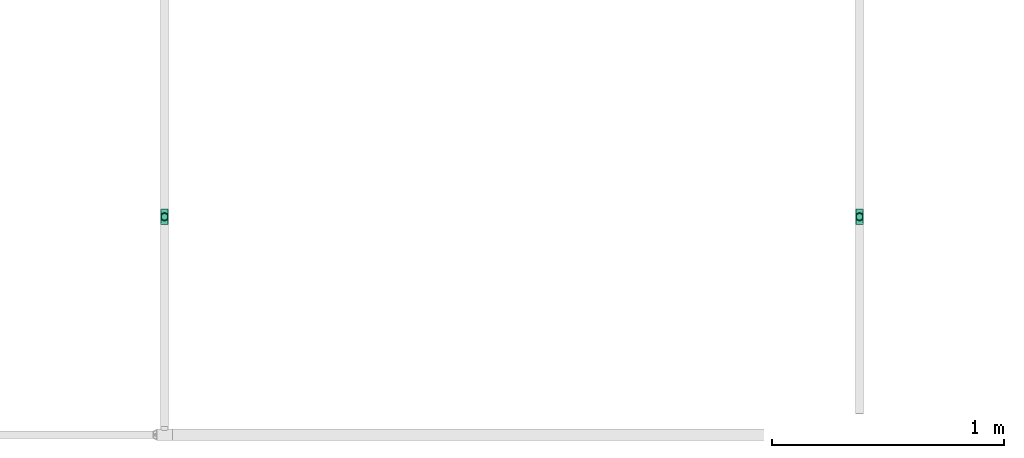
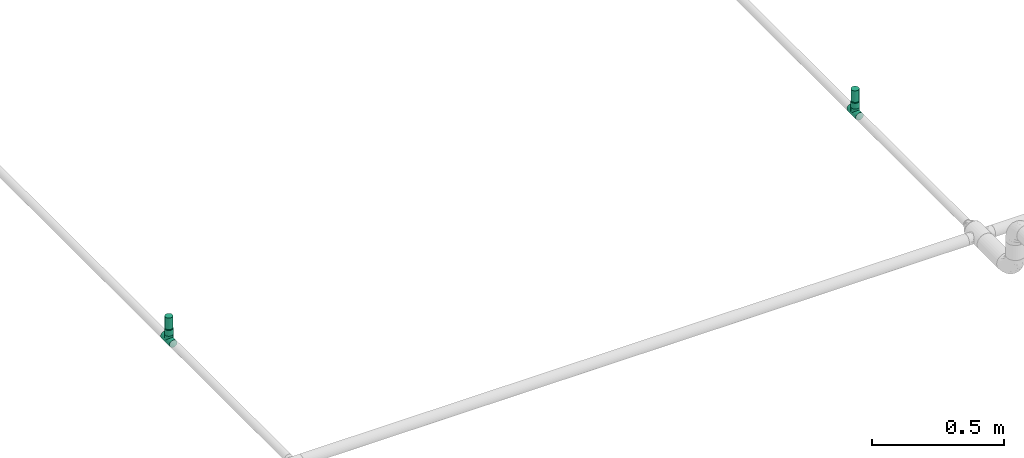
# One storey, part 32 of 45: 4 flow fittings, 2 flow segments, 2 flow terminals.
"""IFC2X3 building model written with IfcOpenShell, lengths in millimetres."""

import ifcopenshell
import ifcopenshell.guid

model = None  # the IFC model being written
_history = None  # IfcOwnerHistory: only IFC2X3 demands one
_inside = {}  # id of a spatial element -> (the spatial element, [elements in it])
_under = {}  # id of a project, library or spatial element -> (it, [spatial elements below it])
_declared = {}  # id of a project -> (the project, [libraries it declares])
_typed = {}  # id of a type object -> (the type object, [elements of that type])
_made_of = {}  # id of a material, layer set ... -> (it, [elements and type objects made of it])


def new_model(schema):
    """Start an empty IFC model of exactly this schema.

    Asked for "IFC4X3", IfcOpenShell would pick the latest addendum, in which some entities
    have other attributes; the version numbers below select the first issue.
    IFC2X3 requires an IfcOwnerHistory on every rooted entity: one is made here for all.
    """
    global model, _history
    if schema == "IFC4X3":
        model = ifcopenshell.file(schema_version=(4, 3, 0, 0))
    else:
        model = ifcopenshell.file(schema=schema)
    _inside.clear()
    _under.clear()
    _declared.clear()
    _typed.clear()
    _made_of.clear()
    _history = None
    if model.schema == "IFC2X3":
        org = make("IfcOrganization", Name="unknown")
        user = make(
            "IfcPersonAndOrganization",
            ThePerson=make("IfcPerson", FamilyName="unknown"),
            TheOrganization=org,
        )
        app = make(
            "IfcApplication",
            ApplicationDeveloper=org,
            Version="unknown",
            ApplicationFullName="unknown",
            ApplicationIdentifier="unknown",
        )
        _history = make(
            "IfcOwnerHistory",
            OwningUser=user,
            OwningApplication=app,
            ChangeAction="ADDED",
            CreationDate=0,
        )
    return model


def make(cls, **values):
    """One entity of the class cls with the attributes given. An attribute that is None is left unset."""
    return model.create_entity(
        cls, **{name: value for name, value in values.items() if value is not None}
    )


def entity(cls, *values):
    """Any entity or typed value of the class cls, its attributes in the order of the schema. None: left unset."""
    e = model.create_entity(cls)
    for i, value in enumerate(values):
        if value is not None:
            e[i] = value
    return e


def rooted(cls, **values):
    """An entity with a GlobalId (a new one), such as an element, a storey or a relation."""
    return make(cls, GlobalId=ifcopenshell.guid.new(), OwnerHistory=_history, **values)


def si_unit(unit_type, name, prefix=None):
    """IfcSIUnit, for example si_unit("LENGTHUNIT", "METRE", prefix="MILLI")."""
    return make("IfcSIUnit", UnitType=unit_type, Prefix=prefix, Name=name)


def converted_unit(unit_type, name, factor, base, dimensions=None, offset=None):
    """IfcConversionBasedUnit, such as the inch: factor (a typed value) times the base unit."""
    return make(
        "IfcConversionBasedUnit"
        if offset is None
        else "IfcConversionBasedUnitWithOffset",
        ConversionOffset=offset,
        Dimensions=None
        if dimensions is None
        else entity("IfcDimensionalExponents", *dimensions),
        UnitType=unit_type,
        Name=name,
        ConversionFactor=make(
            "IfcMeasureWithUnit", ValueComponent=factor, UnitComponent=base
        ),
    )


def derived_unit(unit_type, elements):
    """IfcDerivedUnit: a product of units, each with its exponent."""
    return make(
        "IfcDerivedUnit",
        Elements=[
            make("IfcDerivedUnitElement", Unit=unit, Exponent=power)
            for unit, power in elements
        ],
        UnitType=unit_type,
    )


def assignment(units):
    """IfcUnitAssignment: the units of a project."""
    return None if units is None else make("IfcUnitAssignment", Units=units)


def point(xyz):
    """IfcCartesianPoint."""
    return None if xyz is None else make("IfcCartesianPoint", Coordinates=xyz)


def direction(xyz):
    """IfcDirection."""
    return None if xyz is None else make("IfcDirection", DirectionRatios=xyz)


def frame(location, z_axis=None, x_axis=None):
    """IfcAxis2Placement3D, a coordinate frame: its origin and axes. An axis left out is left unset."""
    return make(
        "IfcAxis2Placement3D",
        Location=point(location),
        Axis=direction(z_axis),
        RefDirection=direction(x_axis),
    )


def frame_2d(location, x_axis=None):
    """IfcAxis2Placement2D, a coordinate frame in the plane: its origin and x axis."""
    return make(
        "IfcAxis2Placement2D", Location=point(location), RefDirection=direction(x_axis)
    )


def origin_with_axes():
    """The frame at (0, 0, 0) with the z axis (0, 0, 1) and the x axis (1, 0, 0) written out."""
    return frame((0.0, 0.0, 0.0), z_axis=(0.0, 0.0, 1.0), x_axis=(1.0, 0.0, 0.0))


def origin_2d_with_axis():
    """The frame at (0, 0) in the plane with the x axis (1, 0) written out."""
    return frame_2d((0.0, 0.0), x_axis=(1.0, 0.0))


def place(relative_to, where):
    """IfcLocalPlacement: puts the frame where relative to a parent placement (None: the world)."""
    return make(
        "IfcLocalPlacement", PlacementRelTo=relative_to, RelativePlacement=where
    )


def context(
    kind, dimensions, precision=None, world=None, true_north=None, identifier=None
):
    """IfcGeometricRepresentationContext, for example the 3D "Model" context."""
    return make(
        "IfcGeometricRepresentationContext",
        ContextIdentifier=identifier,
        ContextType=kind,
        CoordinateSpaceDimension=dimensions,
        Precision=precision,
        WorldCoordinateSystem=world,
        TrueNorth=true_north,
    )


def subcontext(parent, identifier, kind, view, scale=None):
    """IfcGeometricRepresentationSubContext, for example "Body" below "Model"."""
    return make(
        "IfcGeometricRepresentationSubContext",
        ContextIdentifier=identifier,
        ContextType=kind,
        ParentContext=parent,
        TargetScale=scale,
        TargetView=view,
    )


def project(units=None, contexts=None):
    """IfcProject with its units and contexts."""
    return rooted(
        "IfcProject",
        Name="project",
        RepresentationContexts=contexts,
        UnitsInContext=assignment(units),
    )


def spatial(cls, under=None, at=None, **own):
    """A site, building, storey or space (cls), placed at a placement, below another one or the project."""
    s = rooted(cls, ObjectPlacement=at, **own)
    if under is not None:
        _under.setdefault(under.id(), (under, []))[1].append(s)
    return s


def profile(cls, at=None, kind="AREA", **sizes):
    """A parametric profile (cls). Its sizes go by their IFC names, for example OverallWidth=200.0."""
    return make(cls, ProfileType=kind, Position=at, **sizes)


def hollow_circle(**sizes):
    """IfcCircleHollowProfileDef."""
    return profile("IfcCircleHollowProfileDef", **sizes)


def extrude(swept, where, along, depth):
    """IfcExtrudedAreaSolid: the profile swept, set in the frame where, extruded along a direction by depth."""
    return make(
        "IfcExtrudedAreaSolid",
        SweptArea=swept,
        Position=where,
        ExtrudedDirection=direction(along),
        Depth=depth,
    )


def faces_of(points, faces, orient=None, outer=None):
    """IfcFace entities. A face is a list of loops; a loop is a list of indices into points, from 0.

    orient and outer hold one flag for each loop. By default every Orientation is true, the
    first loop of a face is its IfcFaceOuterBound and the others are IfcFaceBound.
    """
    made = []
    for i, loops in enumerate(faces):
        bounds = []
        for j, loop in enumerate(loops):
            is_outer = j == 0 if outer is None else outer[i][j]
            bounds.append(
                make(
                    "IfcFaceOuterBound" if is_outer else "IfcFaceBound",
                    Bound=make("IfcPolyLoop", Polygon=[points[k] for k in loop]),
                    Orientation=True if orient is None else orient[i][j],
                )
            )
        made.append(make("IfcFace", Bounds=bounds))
    return made


def open_shell(faces, orient=None, outer=None):
    """The faces of one IfcOpenShell. surface_model builds it on its shared points."""
    return ("IfcOpenShell", faces, orient, outer)


def surface_model(cls, points, shells):
    """IfcFaceBasedSurfaceModel or IfcShellBasedSurfaceModel (cls): surfaces that need not close."""
    shared = [point(p) for p in points]
    made = [make(c, CfsFaces=faces_of(shared, fs, o, b)) for c, fs, o, b in shells]
    if cls == "IfcFaceBasedSurfaceModel":
        return make(cls, FbsmFaces=made)
    return make(cls, SbsmBoundary=made)


def shape(context_of_items, identifier, shape_type, items):
    """IfcShapeRepresentation: the items that make up one representation, for example the "Body"."""
    return make(
        "IfcShapeRepresentation",
        ContextOfItems=context_of_items,
        RepresentationIdentifier=identifier,
        RepresentationType=shape_type,
        Items=items,
    )


def source(mapping_origin, context_of_items, identifier, shape_type, items):
    """IfcRepresentationMap: a shape defined once, which mapped items show again and again."""
    return make(
        "IfcRepresentationMap",
        MappingOrigin=mapping_origin,
        MappedRepresentation=shape(context_of_items, identifier, shape_type, items),
    )


def transform(
    local_origin,
    x_axis=None,
    y_axis=None,
    z_axis=None,
    scale=None,
    scale2=None,
    scale3=None,
    uniform=True,
):
    """IfcCartesianTransformationOperator3D, or its non-uniform kind. x_axis, y_axis, z_axis: its Axis1, 2, 3."""
    if uniform:
        return make(
            "IfcCartesianTransformationOperator3D",
            Axis1=direction(x_axis),
            Axis2=direction(y_axis),
            LocalOrigin=point(local_origin),
            Scale=scale,
            Axis3=direction(z_axis),
        )
    return make(
        "IfcCartesianTransformationOperator3DnonUniform",
        Axis1=direction(x_axis),
        Axis2=direction(y_axis),
        LocalOrigin=point(local_origin),
        Scale=scale,
        Axis3=direction(z_axis),
        Scale2=scale2,
        Scale3=scale3,
    )


def mapped(mapping_source, mapping_target):
    """IfcMappedItem: shows the shape of a source again, moved by a transform."""
    return make(
        "IfcMappedItem", MappingSource=mapping_source, MappingTarget=mapping_target
    )


def made_of(thing, what):
    """Note that an element or type object is made of a material, layer set ...; save() writes the relation."""
    if what is not None:
        _made_of.setdefault(what.id(), (what, []))[1].append(thing)
    return thing


def type_object(cls, material=None, **own):
    """A type object (cls), such as IfcWallType, which elements share."""
    return made_of(rooted(cls, **own), material)


def element(
    cls,
    number,
    at=None,
    inside=None,
    cuts=None,
    type_object=None,
    material=None,
    context=None,
    identifier="Body",
    shape_type=None,
    held_by="IfcProductDefinitionShape",
    body=None,
    shapes=None,
    **own,
):
    """One element of the class cls, such as IfcWall. Its Tag is "e" and its number.

    at: its placement. inside: the storey or other place that contains it. cuts: it is an
    opening in that element (IfcRelVoidsElement). A single representation is given by context,
    identifier, shape_type and body (its items); several are given by shapes. held_by: the class
    of the entity that holds the representations. save() writes the other relations.
    """
    e = rooted(cls, Tag="e%d" % number, ObjectPlacement=at, **own)
    if body is not None:
        shapes = [shape(context, identifier, shape_type, body)]
    if shapes is not None:
        e.Representation = make(held_by, Representations=shapes)
    if inside is not None:
        _inside.setdefault(inside.id(), (inside, []))[1].append(e)
    if cuts is not None:
        rooted(
            "IfcRelVoidsElement", RelatingBuildingElement=cuts, RelatedOpeningElement=e
        )
    if type_object is not None:
        _typed.setdefault(type_object.id(), (type_object, []))[1].append(e)
    return made_of(e, material)


def aggregate(whole, parts):
    """IfcRelAggregates: a whole, such as a stair, and the parts it consists of."""
    return rooted("IfcRelAggregates", RelatingObject=whole, RelatedObjects=parts)


def save(model, path):
    """Write the relations noted so far, then the file.

    IfcRelAggregates (storeys below a building ...), IfcRelContainedInSpatialStructure (elements
    in a storey), IfcRelDefinesByType, IfcRelAssociatesMaterial and IfcRelDeclares: one each for
    every whole, place, type object, material and project.
    """
    for whole, parts in _under.values():
        aggregate(whole, parts)
    for where, things in _inside.values():
        rooted(
            "IfcRelContainedInSpatialStructure",
            RelatedElements=things,
            RelatingStructure=where,
        )
    for kind, things in _typed.values():
        rooted("IfcRelDefinesByType", RelatedObjects=things, RelatingType=kind)
    for what, things in _made_of.values():
        rooted("IfcRelAssociatesMaterial", RelatedObjects=things, RelatingMaterial=what)
    for by, libraries in _declared.values():
        rooted("IfcRelDeclares", RelatingContext=by, RelatedDefinitions=libraries)
    model.write(path)


model = new_model("IFC2X3")

# Units and contexts
model_context = context("Model", 3, precision=0.01, world=frame((0.0, 4.29681676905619e-09, 0.0)), true_north=direction((4.01073788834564e-13, 1.0)))
plan_context = context("Plan", 3, precision=0.01, world=frame((0.0, 4.29681676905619e-09, 0.0)), true_north=direction((4.01073788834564e-13, 1.0)))
body_context = subcontext(model_context, "Body", "Model", "MODEL_VIEW")
ifc_project = project(units=[converted_unit("PLANEANGLEUNIT", "DEGREE", entity("IfcPositiveLengthMeasure", 0.0174532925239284), si_unit("PLANEANGLEUNIT", "RADIAN"), dimensions=[0, 0, 0, 0, 0, 0, 0]), si_unit("AREAUNIT", "SQUARE_METRE"), si_unit("LENGTHUNIT", "METRE", prefix="MILLI"), si_unit("MASSUNIT", "GRAM", prefix="KILO"), si_unit("POWERUNIT", "WATT"), si_unit("PRESSUREUNIT", "PASCAL", prefix="KILO"), si_unit("FORCEUNIT", "NEWTON", prefix="KILO"), si_unit("ELECTRICVOLTAGEUNIT", "VOLT"), si_unit("ELECTRICCURRENTUNIT", "AMPERE"), si_unit("THERMODYNAMICTEMPERATUREUNIT", "DEGREE_CELSIUS"), si_unit("TIMEUNIT", "SECOND"), si_unit("VOLUMEUNIT", "CUBIC_METRE"), derived_unit("LINEARVELOCITYUNIT", [(si_unit("LENGTHUNIT", "METRE"), 1), (si_unit("TIMEUNIT", "SECOND"), -1)]), derived_unit("VOLUMETRICFLOWRATEUNIT", [(si_unit("VOLUMEUNIT", "CUBIC_METRE"), 1), (si_unit("TIMEUNIT", "SECOND"), -1)]), derived_unit("THERMALTRANSMITTANCEUNIT", [(si_unit("POWERUNIT", "WATT"), 1), (si_unit("THERMODYNAMICTEMPERATUREUNIT", "KELVIN"), -1), (si_unit("AREAUNIT", "SQUARE_METRE"), -1)]), derived_unit("SOUNDPRESSUREUNIT", [(si_unit("PRESSUREUNIT", "PASCAL"), 1)])], contexts=[model_context, plan_context])

# Site, building, storey
site_placement = place(None, frame((0.0, -4.29681676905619e-09, 0.0), z_axis=(0.0, 0.0, 1.0), x_axis=(1.0, 0.0, 0.0)))
site = spatial("IfcSite", under=ifc_project, at=site_placement, CompositionType="ELEMENT")
building_placement = place(site_placement, frame((0.0, 4.29681676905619e-09, 0.0), z_axis=(0.0, 0.0, 1.0), x_axis=(1.0, 0.0, 0.0)))
building = spatial("IfcBuilding", under=site, at=building_placement, Name="mc-building", CompositionType="ELEMENT")
storey_placement = place(building_placement, frame((0.0, 0.0, 210200.0), z_axis=(0.0, 0.0, 1.0), x_axis=(1.0, 0.0, 0.0)))
storey = spatial("IfcBuildingStorey", under=building, at=storey_placement, Name="Nivå F - 0,7 m", CompositionType="ELEMENT", Elevation=210200.0)

# Flow fittings
pipe_fitting_type_1 = type_object("IfcPipeFittingType", Name="magi_pipe_fe_tee_centric_90_001", PredefinedType="JUNCTION")
shared_shape_1 = source(origin_with_axes(), body_context, "Body", "SurfaceModel", [
    surface_model("IfcShellBasedSurfaceModel", [(-33.8, 4.37404, -16.32415), (-33.8, 0.0, -16.9), (-33.8, 16.32415, -4.37404), (-33.8, 8.45, -14.63583), (-33.8, 11.9501, -11.9501), (-33.8, 14.63583, -8.45), (-33.8, -16.9, 0.0), (-33.8, -11.9501, -11.9501), (-33.8, -14.63583, -8.45), (-33.8, -8.45, -14.63583), (-33.8, -4.37404, -16.32415), (-33.8, -16.32415, -4.37404), (-33.8, 14.63583, 8.45), (-33.8, 16.32415, 4.37404), (-33.8, -8.45, 14.63583), (-33.8, 8.45, 14.63583), (-33.8, 11.9501, 11.9501), (-33.8, 4.37404, 16.32415), (-33.8, 0.0, 16.9), (-33.8, -11.9501, 11.9501), (-33.8, -14.63583, 8.45), (-33.8, -16.32415, 4.37404), (-33.8, -4.37404, 16.32415), (-33.8, 16.9, 0.0), (33.8, 4.37404, -16.32415), (33.8, -16.9, 0.0), (33.8, 0.0, -16.9), (33.8, 14.63583, -8.45), (33.8, 8.45, -14.63583), (33.8, 16.32415, -4.37404), (33.8, 11.9501, -11.9501), (33.8, -16.32415, 4.37404), (33.8, -8.45, -14.63583), (33.8, -4.37404, -16.32415), (33.8, -11.9501, -11.9501), (33.8, -14.63583, -8.45), (33.8, -16.32415, -4.37404), (33.8, 16.32415, 4.37404), (33.8, 8.45, 14.63583), (33.8, 14.63583, 8.45), (33.8, 11.9501, 11.9501), (33.8, -8.45, 14.63583), (33.8, 4.37404, 16.32415), (33.8, -14.63583, 8.45), (33.8, -11.9501, 11.9501), (33.8, 0.0, 16.9), (33.8, -4.37404, 16.32415), (33.8, 16.9, 0.0), (16.28698, -16.28698, 4.51047), (16.9, -16.9, 0.0), (14.62704, -14.62704, 8.4652), (9.47213, -9.47213, 13.99602), (12.26343, -12.26343, 11.62834), (-16.9, -16.9, 0.0), (-16.28698, -16.28698, 4.51047), (-14.62704, -14.62704, 8.4652), (-12.26343, -12.26343, 11.62834), (-9.47213, -9.47213, 13.99602), (-6.42894, -6.42894, 15.62942), (6.42894, -6.42894, 15.62942), (3.24522, -3.24522, 16.58549), (0.0, 0.0, 16.9), (-3.24522, -3.24522, 16.58549), (3.24522, -3.24522, -16.58549), (0.0, 0.0, -16.9), (-3.24522, -3.24522, -16.58549), (-6.42894, -6.42894, -15.62942), (6.42894, -6.42894, -15.62942), (9.47213, -9.47213, -13.99602), (12.26343, -12.26343, -11.62834), (14.62704, -14.62704, -8.4652), (16.28698, -16.28698, -4.51047), (-9.47213, -9.47213, -13.99602), (-12.26343, -12.26343, -11.62834), (-16.28698, -16.28698, -4.51047), (-14.62704, -14.62704, -8.4652), (4.37404, -25.35, -16.32415), (-16.9, -25.35, 0.0), (0.0, -25.35, -16.9), (14.63583, -25.35, -8.45), (8.45, -25.35, -14.63583), (16.32415, -25.35, -4.37404), (11.9501, -25.35, -11.9501), (-11.9501, -25.35, -11.9501), (-8.45, -25.35, -14.63583), (-4.37404, -25.35, -16.32415), (-14.63583, -25.35, -8.45), (-16.32415, -25.35, -4.37404), (16.9, -25.35, 0.0), (8.45, -25.35, 14.63583), (16.32415, -25.35, 4.37404), (14.63583, -25.35, 8.45), (-8.45, -25.35, 14.63583), (11.9501, -25.35, 11.9501), (4.37404, -25.35, 16.32415), (-16.32415, -25.35, 4.37404), (-11.9501, -25.35, 11.9501), (-14.63583, -25.35, 8.45), (0.0, -25.35, 16.9), (-4.37404, -25.35, 16.32415)], [open_shell([[[0, 1, 2]], [[3, 0, 4]], [[0, 2, 5]], [[4, 0, 5]], [[6, 2, 1]], [[7, 8, 9]], [[1, 10, 9]], [[11, 6, 8]], [[1, 9, 8]], [[1, 8, 6]], [[6, 12, 2]], [[12, 13, 2]], [[14, 12, 6]], [[12, 14, 15]], [[16, 12, 15]], [[17, 15, 18]], [[19, 14, 20]], [[21, 20, 14]], [[22, 18, 14]], [[14, 6, 21]], [[14, 18, 15]], [[23, 2, 13]], [[24, 25, 26]], [[27, 24, 28]], [[27, 29, 24]], [[27, 28, 30]], [[31, 25, 24]], [[26, 32, 33]], [[26, 34, 32]], [[35, 25, 36]], [[35, 34, 26]], [[25, 35, 26]], [[24, 29, 31]], [[29, 37, 38]], [[38, 37, 39]], [[38, 31, 29]], [[38, 39, 40]], [[41, 38, 42]], [[43, 41, 44]], [[41, 43, 31]], [[41, 45, 46]], [[41, 31, 38]], [[42, 45, 41]], [[29, 47, 37]], [[31, 43, 48]], [[25, 31, 49]], [[49, 31, 48]], [[43, 50, 48]], [[44, 41, 51]], [[50, 43, 52]], [[51, 52, 44]], [[52, 43, 44]], [[53, 54, 21]], [[53, 21, 6]], [[21, 54, 20]], [[54, 55, 20]], [[56, 57, 19]], [[19, 20, 56]], [[19, 57, 14]], [[56, 20, 55]], [[14, 57, 58]], [[51, 41, 59]], [[60, 45, 61]], [[59, 46, 60]], [[46, 59, 41]], [[60, 46, 45]], [[61, 45, 42]], [[39, 37, 13]], [[16, 38, 40]], [[12, 40, 39]], [[42, 38, 15]], [[23, 37, 47]], [[62, 61, 18]], [[62, 22, 58]], [[22, 62, 18]], [[58, 22, 14]], [[61, 17, 18]], [[42, 17, 61]], [[15, 17, 42]], [[15, 38, 16]], [[12, 16, 40]], [[13, 12, 39]], [[37, 23, 13]], [[5, 27, 30]], [[23, 47, 29]], [[30, 28, 3]], [[27, 2, 29]], [[26, 33, 63]], [[26, 64, 24]], [[64, 26, 63]], [[28, 24, 0]], [[64, 0, 24]], [[4, 30, 3]], [[2, 27, 5]], [[5, 30, 4]], [[2, 23, 29]], [[65, 66, 10]], [[1, 0, 64]], [[1, 65, 10]], [[66, 9, 10]], [[0, 3, 28]], [[1, 64, 65]], [[63, 33, 67]], [[32, 34, 68]], [[69, 68, 34]], [[35, 70, 69]], [[69, 34, 35]], [[32, 68, 67]], [[36, 25, 49]], [[36, 71, 35]], [[71, 36, 49]], [[35, 71, 70]], [[72, 9, 66]], [[72, 7, 9]], [[7, 72, 73]], [[7, 73, 8]], [[74, 53, 11]], [[75, 74, 8]], [[74, 11, 8]], [[11, 53, 6]], [[75, 8, 73]], [[32, 67, 33]], [[76, 77, 78]], [[79, 76, 80]], [[79, 81, 76]], [[79, 80, 82]], [[77, 76, 81]], [[78, 83, 84]], [[84, 85, 78]], [[86, 77, 87]], [[83, 78, 86]], [[77, 86, 78]], [[81, 88, 77]], [[89, 88, 90]], [[89, 90, 91]], [[92, 77, 89]], [[89, 91, 93]], [[92, 89, 94]], [[95, 96, 97]], [[96, 95, 92]], [[92, 98, 99]], [[95, 77, 92]], [[94, 98, 92]], [[89, 77, 88]], [[77, 95, 53]], [[54, 53, 95]], [[97, 96, 56]], [[96, 92, 57]], [[95, 97, 54]], [[58, 92, 99]], [[55, 54, 97]], [[56, 55, 97]], [[58, 57, 92]], [[98, 61, 62]], [[58, 99, 62]], [[56, 96, 57]], [[62, 99, 98]], [[94, 60, 98]], [[89, 59, 94]], [[91, 90, 48]], [[52, 93, 91]], [[93, 51, 89]], [[49, 90, 88]], [[59, 60, 94]], [[51, 59, 89]], [[49, 48, 90]], [[50, 52, 91]], [[48, 50, 91]], [[51, 93, 52]], [[98, 60, 61]], [[88, 81, 49]], [[71, 49, 81]], [[79, 82, 69]], [[82, 80, 68]], [[81, 79, 71]], [[67, 80, 76]], [[70, 71, 79]], [[69, 70, 79]], [[67, 68, 80]], [[78, 64, 63]], [[67, 76, 63]], [[69, 82, 68]], [[63, 76, 78]], [[85, 65, 78]], [[84, 66, 85]], [[86, 87, 74]], [[86, 73, 83]], [[72, 84, 83]], [[53, 87, 77]], [[66, 65, 85]], [[72, 66, 84]], [[53, 74, 87]], [[75, 73, 86]], [[74, 75, 86]], [[72, 83, 73]], [[78, 65, 64]]])]),
])
for number, where, z_axis, x_axis, name in (
    (1, (341657.5, 463176.80156, 2810.44542), (-1.0, 0.0, 0.0), (0.0, 1.0, 0.0), "magi_pipe_fe_tee_centric_90_001"),
    (2, (338657.5, 463176.80156, 2810.44542), (-1.0, 0.0, 0.0), (0.0, 1.0, 0.0), "magi_pipe_fe_tee_centric_90_001"),
):
    element("IfcFlowFitting", number, at=place(storey_placement, frame(where, z_axis=z_axis, x_axis=x_axis)), inside=storey, type_object=pipe_fitting_type_1, Name=name, context=body_context, shape_type="MappedRepresentation", body=[
        mapped(shared_shape_1, transform((0.0, 0.0, 0.0), scale=1.0)),
    ])
pipe_fitting_type_2 = type_object("IfcPipeFittingType", Name="magi_pipe_fe_reducer_centric_short_001", PredefinedType="TRANSITION")
shared_shape_2 = source(origin_with_axes(), body_context, "Body", "SurfaceModel", [
    surface_model("IfcShellBasedSurfaceModel", [(9.0, 4.37404, -16.32415), (9.0, 8.45, -14.63583), (9.0, 11.9501, -11.9501), (9.0, 0.0, -16.9), (9.0, 16.32415, -4.37404), (9.0, 16.32415, 4.37404), (9.0, 14.63583, -8.45), (9.0, -8.45, -14.63583), (9.0, -4.37404, -16.32415), (9.0, -11.9501, -11.9501), (9.0, -16.32415, -4.37404), (9.0, -14.63583, -8.45), (9.0, -16.32415, 4.37404), (9.0, 16.9, 0.0), (9.0, 14.63583, 8.45), (9.0, 11.9501, 11.9501), (9.0, 4.37404, 16.32415), (9.0, 0.0, 16.9), (9.0, 8.45, 14.63583), (9.0, -14.63583, 8.45), (9.0, -16.9, 0.0), (9.0, -8.45, 14.63583), (9.0, -11.9501, 11.9501), (9.0, -4.37404, 16.32415), (7.0, 4.37404, 16.32415), (7.0, -14.63583, 8.45), (7.0, 0.0, 16.9), (7.0, 16.32415, 4.37404), (7.0, 8.45, 14.63583), (7.0, 11.9501, 11.9501), (7.0, 14.63583, 8.45), (7.0, -8.45, 14.63583), (7.0, -11.9501, 11.9501), (7.0, -4.37404, 16.32415), (7.0, -16.32415, 4.37404), (7.0, -16.32415, -4.37404), (7.0, -16.9, 0.0), (7.0, -8.45, -14.63583), (7.0, 16.32415, -4.37404), (7.0, 11.9501, -11.9501), (7.0, 14.63583, -8.45), (7.0, 8.45, -14.63583), (7.0, 4.37404, -16.32415), (7.0, 0.0, -16.9), (7.0, -11.9501, -11.9501), (7.0, -14.63583, -8.45), (7.0, -4.37404, -16.32415), (7.0, 16.9, 0.0), (-2.0, -9.47523, 9.47523), (-2.0, 0.0, 13.4), (-2.0, 3.46818, 12.94341), (-2.0, 6.7, 11.60474), (-2.0, 9.47523, 9.47523), (-2.0, 11.60474, 6.7), (-2.0, 12.94341, 3.46818), (-2.0, -3.46818, 12.94341), (-2.0, -6.7, 11.60474), (-2.0, -12.94341, 3.46818), (-2.0, -11.60474, 6.7), (-2.0, -6.7, -11.60474), (-2.0, -12.94341, -3.46818), (-2.0, -13.4, 0.0), (-2.0, 12.94341, -3.46818), (-2.0, 6.7, -11.60474), (-2.0, 9.47523, -9.47523), (-2.0, 11.60474, -6.7), (-2.0, 3.46818, -12.94341), (-2.0, 0.0, -13.4), (-2.0, -9.47523, -9.47523), (-2.0, -11.60474, -6.7), (-2.0, -3.46818, -12.94341), (-2.0, 13.4, 0.0), (0.0, 12.94341, -3.46818), (0.0, 3.46818, -12.94341), (0.0, 6.7, -11.60474), (0.0, 11.60474, -6.7), (0.0, 9.47523, -9.47523), (0.0, -6.7, -11.60474), (0.0, -12.94341, 3.46818), (0.0, -3.46818, -12.94341), (0.0, 0.0, -13.4), (0.0, -9.47523, -9.47523), (0.0, -12.94341, -3.46818), (0.0, -11.60474, -6.7), (0.0, 13.4, 0.0), (0.0, 12.94341, 3.46818), (0.0, 11.60474, 6.7), (0.0, 9.47523, 9.47523), (0.0, 0.0, 13.4), (0.0, 6.7, 11.60474), (0.0, 3.46818, 12.94341), (0.0, -9.47523, 9.47523), (0.0, -11.60474, 6.7), (0.0, -13.4, 0.0), (0.0, -3.46818, 12.94341), (0.0, -6.7, 11.60474), (7.0, -14.51228, -5.76448), (0.0, -11.43761, -4.73762), (7.0, -13.23119, -8.85729), (0.0, -10.45642, -7.10642), (0.0, -12.41881, -2.36881), (7.0, -15.70614, -2.88224), (0.0, -2.36881, -12.41881), (7.0, -5.97505, -14.42505), (0.0, -7.10642, -10.45642), (0.0, -4.73762, -11.43761), (7.0, -2.98753, -15.66253), (7.0, -8.96258, -13.18758), (7.0, 2.98753, -15.66253), (0.0, 2.36881, -12.41881), (0.0, 12.45339, -2.28533), (7.0, 13.18758, -8.96258), (0.0, 10.45642, -7.10642), (7.0, 14.42505, -5.97505), (0.0, 11.43761, -4.73762), (0.0, 7.10642, -10.45642), (7.0, 8.96258, -13.18758), (7.0, 15.66253, -2.98753), (0.0, 4.73762, -11.43761), (7.0, 5.97505, -14.42505), (7.0, 14.51228, 5.76448), (0.0, 11.43761, 4.73762), (7.0, 13.23119, 8.85729), (0.0, 10.45642, 7.10642), (0.0, 12.41881, 2.36881), (7.0, 15.70614, 2.88224), (0.0, 2.36881, 12.41881), (7.0, 5.97505, 14.42505), (0.0, 7.10642, 10.45642), (0.0, 4.73762, 11.43761), (7.0, 2.98753, 15.66253), (7.0, 8.96258, 13.18758), (7.0, -2.98753, 15.66253), (0.0, -2.36881, 12.41881), (0.0, -12.45339, 2.28533), (7.0, -13.18758, 8.96258), (0.0, -10.45642, 7.10642), (7.0, -14.42505, 5.97505), (0.0, -11.43761, 4.73762), (0.0, -7.10642, 10.45642), (7.0, -8.96258, 13.18758), (7.0, -15.66253, 2.98753), (0.0, -4.73762, 11.43761), (7.0, -5.97505, 14.42505)], [open_shell([[[0, 1, 2]], [[3, 0, 2]], [[2, 4, 5]], [[4, 2, 6]], [[2, 5, 7]], [[3, 7, 8]], [[3, 2, 7]], [[9, 10, 11]], [[10, 9, 7]], [[7, 12, 10]], [[5, 4, 13]], [[5, 14, 15]], [[5, 15, 16]], [[16, 17, 5]], [[16, 15, 18]], [[5, 17, 19]], [[5, 19, 12]], [[20, 10, 12]], [[19, 21, 22]], [[19, 17, 21]], [[21, 17, 23]], [[12, 7, 5]], [[24, 25, 26]], [[27, 24, 28]], [[29, 30, 27]], [[29, 27, 28]], [[25, 24, 27]], [[31, 25, 32]], [[25, 31, 33]], [[26, 25, 33]], [[27, 34, 25]], [[34, 35, 36]], [[34, 27, 37]], [[27, 38, 39]], [[39, 38, 40]], [[39, 41, 42]], [[37, 27, 39]], [[42, 43, 39]], [[35, 44, 45]], [[44, 35, 37]], [[37, 43, 46]], [[35, 34, 37]], [[39, 43, 37]], [[38, 27, 47]], [[35, 10, 36]], [[45, 11, 35]], [[7, 44, 37]], [[45, 44, 9]], [[8, 37, 46]], [[35, 11, 10]], [[10, 20, 36]], [[8, 7, 37]], [[9, 44, 7]], [[9, 11, 45]], [[3, 8, 46]], [[46, 43, 3]], [[42, 0, 43]], [[41, 1, 42]], [[6, 39, 40]], [[41, 39, 2]], [[4, 40, 38]], [[41, 2, 1]], [[1, 0, 42]], [[13, 4, 38]], [[6, 40, 4]], [[6, 2, 39]], [[47, 13, 38]], [[43, 0, 3]], [[27, 5, 47]], [[30, 14, 27]], [[18, 29, 28]], [[30, 29, 15]], [[16, 28, 24]], [[27, 14, 5]], [[5, 13, 47]], [[16, 18, 28]], [[15, 29, 18]], [[15, 14, 30]], [[17, 16, 24]], [[24, 26, 17]], [[33, 23, 26]], [[31, 21, 33]], [[19, 32, 25]], [[31, 32, 22]], [[12, 25, 34]], [[31, 22, 21]], [[21, 23, 33]], [[20, 12, 34]], [[19, 25, 12]], [[19, 22, 32]], [[36, 20, 34]], [[26, 23, 17]], [[48, 49, 50]], [[51, 48, 50]], [[52, 53, 54]], [[52, 54, 51]], [[48, 51, 54]], [[55, 48, 56]], [[55, 49, 48]], [[48, 57, 58]], [[48, 59, 57]], [[57, 60, 61]], [[62, 48, 54]], [[48, 62, 63]], [[64, 62, 65]], [[66, 48, 63]], [[63, 62, 64]], [[66, 67, 48]], [[60, 68, 69]], [[60, 57, 68]], [[70, 59, 48]], [[57, 59, 68]], [[70, 48, 67]], [[71, 62, 54]], [[72, 73, 74]], [[75, 74, 76]], [[77, 73, 78]], [[72, 74, 75]], [[73, 72, 78]], [[73, 79, 80]], [[73, 77, 79]], [[81, 82, 83]], [[78, 82, 81]], [[81, 77, 78]], [[72, 84, 78]], [[85, 86, 87]], [[85, 87, 88]], [[89, 90, 88]], [[89, 88, 87]], [[85, 88, 91]], [[78, 91, 92]], [[93, 82, 78]], [[91, 94, 95]], [[91, 78, 85]], [[94, 91, 88]], [[78, 84, 85]], [[60, 82, 61]], [[69, 83, 60]], [[77, 68, 59]], [[69, 68, 81]], [[79, 59, 70]], [[60, 83, 82]], [[82, 93, 61]], [[79, 77, 59]], [[81, 68, 77]], [[81, 83, 69]], [[80, 79, 70]], [[70, 67, 80]], [[66, 73, 67]], [[63, 74, 66]], [[75, 64, 65]], [[63, 64, 76]], [[72, 65, 62]], [[63, 76, 74]], [[74, 73, 66]], [[84, 72, 62]], [[75, 65, 72]], [[75, 76, 64]], [[71, 84, 62]], [[67, 73, 80]], [[54, 85, 71]], [[53, 86, 54]], [[89, 52, 51]], [[53, 52, 87]], [[90, 51, 50]], [[54, 86, 85]], [[85, 84, 71]], [[90, 89, 51]], [[87, 52, 89]], [[87, 86, 53]], [[88, 90, 50]], [[50, 49, 88]], [[55, 94, 49]], [[56, 95, 55]], [[92, 48, 58]], [[56, 48, 91]], [[78, 58, 57]], [[56, 91, 95]], [[95, 94, 55]], [[93, 78, 57]], [[92, 58, 78]], [[92, 91, 48]], [[61, 93, 57]], [[49, 94, 88]], [[36, 29, 26]], [[39, 47, 29]], [[26, 32, 36]], [[36, 44, 43]], [[43, 39, 36]], [[36, 39, 29]], [[81, 91, 88]], [[81, 93, 91]], [[88, 87, 84]], [[84, 76, 81]], [[80, 81, 76]], [[84, 81, 88]], [[96, 97, 98]], [[81, 44, 99]], [[100, 96, 101]], [[102, 80, 43]], [[103, 104, 105]], [[102, 43, 106]], [[107, 81, 104]], [[108, 80, 109]], [[110, 84, 47]], [[93, 101, 36]], [[108, 43, 80]], [[111, 76, 112]], [[113, 112, 114]], [[115, 39, 116]], [[110, 47, 117]], [[99, 98, 97]], [[117, 113, 114]], [[106, 103, 105]], [[118, 116, 119]], [[109, 118, 119]], [[96, 100, 97]], [[93, 100, 101]], [[99, 44, 98]], [[104, 103, 107]], [[107, 44, 81]], [[106, 105, 102]], [[112, 113, 111]], [[111, 39, 76]], [[117, 114, 110]], [[116, 118, 115]], [[115, 76, 39]], [[109, 119, 108]], [[120, 121, 122]], [[87, 29, 123]], [[124, 120, 125]], [[126, 88, 26]], [[127, 128, 129]], [[126, 26, 130]], [[131, 87, 128]], [[132, 88, 133]], [[134, 93, 36]], [[84, 125, 47]], [[132, 26, 88]], [[135, 91, 136]], [[137, 136, 138]], [[139, 32, 140]], [[134, 36, 141]], [[123, 122, 121]], [[141, 137, 138]], [[130, 127, 129]], [[142, 140, 143]], [[133, 142, 143]], [[120, 124, 121]], [[84, 124, 125]], [[123, 29, 122]], [[128, 127, 131]], [[131, 29, 87]], [[130, 129, 126]], [[136, 137, 135]], [[135, 32, 91]], [[141, 138, 134]], [[140, 142, 139]], [[139, 91, 32]], [[133, 143, 132]]])]),
])
for number, where, z_axis, x_axis, name in (
    (3, (341657.5, 463176.80156, 2869.04800000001), (1.0, 0.0, 0.0), (0.0, 0.0, -1.0), "magi_pipe_fe_reducer_centric_short_001"),
    (4, (338657.5, 463176.80156, 2869.04800000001), (1.0, 0.0, 0.0), (0.0, 0.0, -1.0), "magi_pipe_fe_reducer_centric_short_001"),
):
    element("IfcFlowFitting", number, at=place(storey_placement, frame(where, z_axis=z_axis, x_axis=x_axis)), inside=storey, type_object=pipe_fitting_type_2, Name=name, context=body_context, shape_type="MappedRepresentation", body=[
        mapped(shared_shape_2, transform((0.0, 0.0, 0.0), scale=1.0)),
    ])

# Flow segments
pipe_segment_type = type_object("IfcPipeSegmentType", Name="Stålrør normaltykke", PredefinedType="RIGIDSEGMENT")
shared_shape_3 = source(origin_with_axes(), body_context, "Body", "SweptSolid", [
    extrude(hollow_circle(Radius=16.9, WallThickness=2.0, at=origin_2d_with_axis()), frame((0.0, 0.0, 0.0), z_axis=(1.0, 0.0, 0.0), x_axis=(0.0, 1.0, 0.0)), (0.0, 0.0, 1.0), 26.3),
])
for number, where, z_axis, x_axis in (
    (5, (341657.5, 463176.80156, 2862.04800000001), (1.0, 0.0, 0.0), (0.0, 0.0, -1.0)),
    (6, (338657.5, 463176.80156, 2862.04800000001), (1.0, 0.0, 0.0), (0.0, 0.0, -1.0)),
):
    element("IfcFlowSegment", number, at=place(storey_placement, frame(where, z_axis=z_axis, x_axis=x_axis)), inside=storey, type_object=pipe_segment_type, Name="Stålrør normaltykke", context=body_context, shape_type="MappedRepresentation", body=[
        mapped(shared_shape_3, transform((0.0, 0.0, 0.0), scale=1.0)),
    ])

# Flow terminals
fire_suppression_terminal_type = type_object("IfcFireSuppressionTerminalType", Name="SP-15-K80-68DGR-STD", PredefinedType="NOTDEFINED")
shared_shape_4 = source(origin_with_axes(), body_context, "Body", "SurfaceModel", [
    surface_model("IfcShellBasedSurfaceModel", [(4.1411, -15.45481, 53.0), (8.0, -13.85641, 53.0), (11.31371, -11.31371, 53.0), (-8.0, -13.85641, 53.0), (15.45481, -4.1411, 53.0), (16.0, 0.0, 53.0), (13.85641, -8.0, 53.0), (0.0, -16.0, 53.0), (-4.1411, -15.45481, 53.0), (-13.85641, -8.0, 53.0), (-11.31371, -11.31371, 53.0), (-15.45481, -4.1411, 53.0), (15.45481, 4.1411, 53.0), (13.85641, 8.0, 53.0), (11.31371, 11.31371, 53.0), (-4.1411, 15.45481, 53.0), (8.0, 13.85641, 53.0), (4.1411, 15.45481, 53.0), (0.0, 16.0, 53.0), (-13.85641, 8.0, 53.0), (-15.45481, 4.1411, 53.0), (-16.0, 0.0, 53.0), (-11.31371, 11.31371, 53.0), (-8.0, 13.85641, 53.0), (0.0, 16.0, 0.0), (4.1411, 15.45481, 0.0), (8.0, 13.85641, 0.0), (-4.1411, 15.45481, 0.0), (11.31371, 11.31371, 0.0), (13.85641, 8.0, 0.0), (15.45481, 4.1411, 0.0), (-15.45481, -4.1411, 0.0), (-11.31371, 11.31371, 0.0), (-8.0, 13.85641, 0.0), (-13.85641, 8.0, 0.0), (-15.45481, 4.1411, 0.0), (-16.0, 0.0, 0.0), (4.1411, -15.45481, 0.0), (16.0, 0.0, 0.0), (15.45481, -4.1411, 0.0), (13.85641, -8.0, 0.0), (11.31371, -11.31371, 0.0), (8.0, -13.85641, 0.0), (-8.0, -13.85641, 0.0), (-13.85641, -8.0, 0.0), (-11.31371, -11.31371, 0.0), (0.0, -16.0, 0.0), (-4.1411, -15.45481, 0.0)], [open_shell([[[0, 1, 2]], [[3, 0, 2]], [[4, 5, 2]], [[4, 2, 6]], [[3, 2, 5]], [[7, 3, 8]], [[7, 0, 3]], [[3, 9, 10]], [[9, 3, 11]], [[5, 11, 3]], [[5, 12, 11]], [[12, 13, 14]], [[15, 12, 14]], [[16, 17, 18]], [[14, 16, 15]], [[18, 15, 16]], [[11, 19, 20]], [[21, 11, 20]], [[22, 15, 23]], [[15, 22, 19]], [[19, 11, 15]], [[11, 12, 15]], [[24, 25, 26]], [[27, 24, 26]], [[28, 29, 30]], [[27, 26, 28]], [[27, 28, 31]], [[27, 32, 33]], [[32, 27, 34]], [[34, 31, 35]], [[31, 34, 27]], [[35, 31, 36]], [[28, 30, 31]], [[37, 38, 39]], [[37, 39, 40]], [[41, 42, 37]], [[41, 37, 40]], [[38, 37, 43]], [[44, 43, 45]], [[43, 44, 31]], [[43, 46, 47]], [[43, 31, 38]], [[37, 46, 43]], [[38, 31, 30]], [[11, 31, 44]], [[45, 9, 44]], [[3, 43, 47]], [[45, 43, 10]], [[8, 47, 46]], [[31, 21, 36]], [[31, 11, 21]], [[44, 9, 11]], [[45, 10, 9]], [[3, 10, 43]], [[47, 8, 3]], [[46, 7, 8]], [[0, 37, 42]], [[41, 1, 42]], [[6, 40, 39]], [[41, 40, 2]], [[4, 39, 38]], [[37, 0, 7]], [[42, 1, 0]], [[41, 2, 1]], [[40, 6, 2]], [[4, 6, 39]], [[38, 5, 4]], [[37, 7, 46]], [[12, 38, 30]], [[13, 30, 29]], [[16, 26, 25]], [[17, 25, 24]], [[30, 13, 12]], [[12, 5, 38]], [[28, 14, 13]], [[28, 26, 14]], [[14, 26, 16]], [[25, 17, 16]], [[28, 13, 29]], [[24, 18, 17]], [[15, 27, 33]], [[32, 23, 33]], [[19, 34, 35]], [[32, 34, 22]], [[20, 35, 36]], [[27, 15, 18]], [[33, 23, 15]], [[32, 22, 23]], [[34, 19, 22]], [[20, 19, 35]], [[36, 21, 20]], [[27, 18, 24]]])]),
])
for number, where, z_axis, x_axis in (
    (7, (341657.5, 463176.80156, 2866.0), (0.0, 0.0, 1.0), (1.0, 0.0, 0.0)),
    (8, (338657.5, 463176.80156, 2866.0), (0.0, 0.0, 1.0), (1.0, 0.0, 0.0)),
):
    element("IfcFlowTerminal", number, at=place(storey_placement, frame(where, z_axis=z_axis, x_axis=x_axis)), inside=storey, type_object=fire_suppression_terminal_type, Name="SP-15-K80-68DGR-STD", context=body_context, shape_type="MappedRepresentation", body=[
        mapped(shared_shape_4, transform((0.0, 0.0, 0.0), scale=1.0)),
    ])

save(model, "model.ifc")
